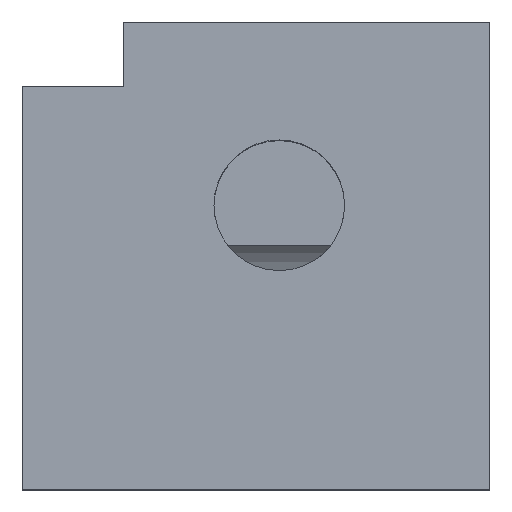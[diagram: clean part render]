
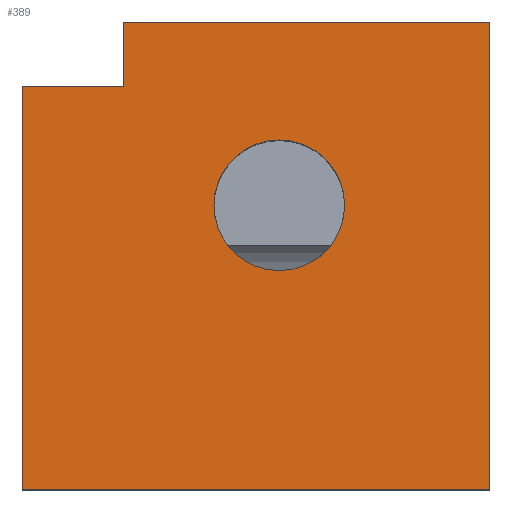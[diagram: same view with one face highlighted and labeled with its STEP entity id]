
A CAD part, top view. The second image highlights one B-rep face of the part: STEP entity #389.
In plain terms, the highlighted planar face has unit normal (0, 0, 1).
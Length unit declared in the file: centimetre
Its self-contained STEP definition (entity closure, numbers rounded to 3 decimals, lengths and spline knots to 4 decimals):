
#29 = CARTESIAN_POINT ( 'NONE',  ( 1000., 1000., 1000. ) ) ;
#66 = ORIENTED_EDGE ( 'NONE', *, *, #1495, .F. ) ;
#67 = VERTEX_POINT ( 'NONE', #900 ) ;
#144 = FACE_OUTER_BOUND ( 'NONE', #427, .T. ) ;
#153 = ORIENTED_EDGE ( 'NONE', *, *, #734, .T. ) ;
#156 = VERTEX_POINT ( 'NONE', #29 ) ;
#183 = DIRECTION ( 'NONE',  ( 0., 0., 1. ) ) ;
#186 = ORIENTED_EDGE ( 'NONE', *, *, #1372, .F. ) ;
#224 = VECTOR ( 'NONE', #773, 100. ) ;
#261 = VERTEX_POINT ( 'NONE', #557 ) ;
#285 = VECTOR ( 'NONE', #1679, 100. ) ;
#315 = EDGE_LOOP ( 'NONE', ( #186, #66 ) ) ;
#364 = EDGE_CURVE ( 'NONE', #156, #67, #1804, .T. ) ;
#366 = CARTESIAN_POINT ( 'NONE',  ( 0., 0., 1000. ) ) ;
#389 = ADVANCED_FACE ( 'NONE', ( #144, #1325 ), #483, .T. ) ;
#402 = AXIS2_PLACEMENT_3D ( 'NONE', #1807, #824, #1557 ) ;
#407 = DIRECTION ( 'NONE',  ( -1., 0., 0. ) ) ;
#427 = EDGE_LOOP ( 'NONE', ( #1746, #1030, #1025, #153, #1415, #593 ) ) ;
#450 = VERTEX_POINT ( 'NONE', #1313 ) ;
#451 = CARTESIAN_POINT ( 'NONE',  ( 0., 862.9973, 1000. ) ) ;
#456 = VERTEX_POINT ( 'NONE', #1006 ) ;
#472 = EDGE_CURVE ( 'NONE', #757, #156, #1100, .T. ) ;
#480 = CARTESIAN_POINT ( 'NONE',  ( 689.6345, 607.6844, 1000. ) ) ;
#483 = PLANE ( 'NONE',  #958 ) ;
#494 = DIRECTION ( 'NONE',  ( 0., 0., 1. ) ) ;
#542 = DIRECTION ( 'NONE',  ( 0., 1., 0. ) ) ;
#557 = CARTESIAN_POINT ( 'NONE',  ( 410.0581, 607.6844, 1000. ) ) ;
#591 = DIRECTION ( 'NONE',  ( 1., 0., 0. ) ) ;
#593 = ORIENTED_EDGE ( 'NONE', *, *, #364, .T. ) ;
#656 = CARTESIAN_POINT ( 'NONE',  ( 1000., 0., 1000. ) ) ;
#667 = AXIS2_PLACEMENT_3D ( 'NONE', #874, #183, #591 ) ;
#723 = CARTESIAN_POINT ( 'NONE',  ( 0., 1000., 1000. ) ) ;
#731 = VERTEX_POINT ( 'NONE', #480 ) ;
#734 = EDGE_CURVE ( 'NONE', #456, #757, #1358, .T. ) ;
#757 = VERTEX_POINT ( 'NONE', #656 ) ;
#773 = DIRECTION ( 'NONE',  ( 1., 0., 0. ) ) ;
#784 = EDGE_CURVE ( 'NONE', #450, #67, #1468, .T. ) ;
#824 = DIRECTION ( 'NONE',  ( 0., 0., 1. ) ) ;
#830 = CARTESIAN_POINT ( 'NONE',  ( 1000., 1000., 1000. ) ) ;
#874 = CARTESIAN_POINT ( 'NONE',  ( 549.8463, 607.6844, 1000. ) ) ;
#887 = CIRCLE ( 'NONE', #402, 139.7882 ) ;
#900 = CARTESIAN_POINT ( 'NONE',  ( 216.5545, 1000., 1000. ) ) ;
#904 = VECTOR ( 'NONE', #542, 100. ) ;
#910 = VECTOR ( 'NONE', #1138, 100. ) ;
#958 = AXIS2_PLACEMENT_3D ( 'NONE', #366, #494, #1730 ) ;
#963 = CIRCLE ( 'NONE', #667, 139.7882 ) ;
#982 = CARTESIAN_POINT ( 'NONE',  ( 0., 862.9973, 1000. ) ) ;
#1006 = CARTESIAN_POINT ( 'NONE',  ( 0., 0., 1000. ) ) ;
#1025 = ORIENTED_EDGE ( 'NONE', *, *, #1526, .T. ) ;
#1030 = ORIENTED_EDGE ( 'NONE', *, *, #1391, .F. ) ;
#1100 = LINE ( 'NONE', #830, #904 ) ;
#1138 = DIRECTION ( 'NONE',  ( 1., 0., 0. ) ) ;
#1158 = LINE ( 'NONE', #982, #910 ) ;
#1218 = CARTESIAN_POINT ( 'NONE',  ( 216.5545, 862.9973, 1000. ) ) ;
#1313 = CARTESIAN_POINT ( 'NONE',  ( 216.5545, 862.9973, 1000. ) ) ;
#1325 = FACE_BOUND ( 'NONE', #315, .T. ) ;
#1358 = LINE ( 'NONE', #1486, #224 ) ;
#1372 = EDGE_CURVE ( 'NONE', #731, #261, #963, .T. ) ;
#1391 = EDGE_CURVE ( 'NONE', #1752, #450, #1158, .T. ) ;
#1415 = ORIENTED_EDGE ( 'NONE', *, *, #472, .T. ) ;
#1468 = LINE ( 'NONE', #1218, #1487 ) ;
#1486 = CARTESIAN_POINT ( 'NONE',  ( 0., 0., 1000. ) ) ;
#1487 = VECTOR ( 'NONE', #1769, 100. ) ;
#1495 = EDGE_CURVE ( 'NONE', #261, #731, #887, .T. ) ;
#1526 = EDGE_CURVE ( 'NONE', #1752, #456, #1528, .T. ) ;
#1528 = LINE ( 'NONE', #723, #285 ) ;
#1557 = DIRECTION ( 'NONE',  ( 1., 0., 0. ) ) ;
#1653 = VECTOR ( 'NONE', #407, 100. ) ;
#1667 = CARTESIAN_POINT ( 'NONE',  ( 0., 1000., 1000. ) ) ;
#1679 = DIRECTION ( 'NONE',  ( 0., -1., 0. ) ) ;
#1730 = DIRECTION ( 'NONE',  ( 1., 0., 0. ) ) ;
#1746 = ORIENTED_EDGE ( 'NONE', *, *, #784, .F. ) ;
#1752 = VERTEX_POINT ( 'NONE', #451 ) ;
#1769 = DIRECTION ( 'NONE',  ( 0., 1., 0. ) ) ;
#1804 = LINE ( 'NONE', #1667, #1653 ) ;
#1807 = CARTESIAN_POINT ( 'NONE',  ( 549.8463, 607.6844, 1000. ) ) ;
